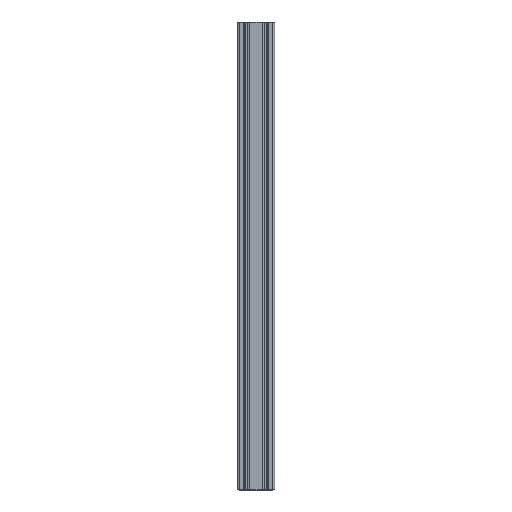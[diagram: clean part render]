
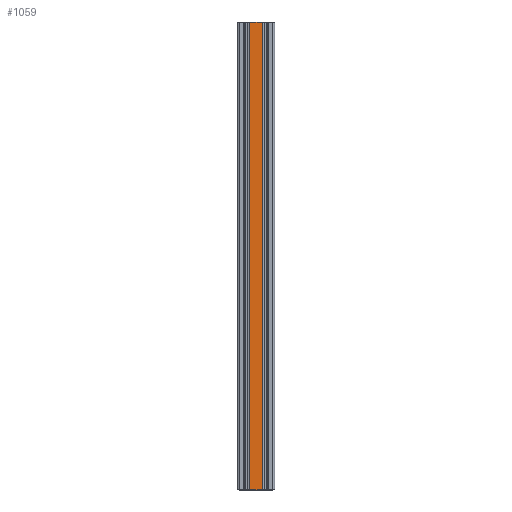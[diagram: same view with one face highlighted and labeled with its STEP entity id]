
A CAD part, top view. The second image highlights one B-rep face of the part: STEP entity #1059.
In plain terms, the highlighted planar face has unit normal (0, 0, 1).
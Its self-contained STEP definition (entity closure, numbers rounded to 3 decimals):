
#312 = DIRECTION ( 'NONE',  ( 0., -1., 0. ) ) ;
#415 = CARTESIAN_POINT ( 'NONE',  ( -3.312, -300., 10. ) ) ;
#505 = VECTOR ( 'NONE', #3934, 1000. ) ;
#714 = VECTOR ( 'NONE', #1337, 1000. ) ;
#745 = CARTESIAN_POINT ( 'NONE',  ( -3.312, 200., 10. ) ) ;
#860 = CARTESIAN_POINT ( 'NONE',  ( -6.625, 0., 10. ) ) ;
#925 = DIRECTION ( 'NONE',  ( 0., 0., 1. ) ) ;
#946 = PLANE ( 'NONE',  #2026 ) ;
#953 = CARTESIAN_POINT ( 'NONE',  ( 6.625, 200., 10. ) ) ;
#1059 = ADVANCED_FACE ( 'NONE', ( #4153 ), #946, .T. ) ;
#1070 = DIRECTION ( 'NONE',  ( -1., 0., 0. ) ) ;
#1108 = VERTEX_POINT ( 'NONE', #1562 ) ;
#1178 = DIRECTION ( 'NONE',  ( 1., 0., 0. ) ) ;
#1197 = ORIENTED_EDGE ( 'NONE', *, *, #2012, .F. ) ;
#1249 = CARTESIAN_POINT ( 'NONE',  ( 6.625, 0., 10. ) ) ;
#1337 = DIRECTION ( 'NONE',  ( -1., 0., 0. ) ) ;
#1411 = CARTESIAN_POINT ( 'NONE',  ( -6.625, -300., 10. ) ) ;
#1562 = CARTESIAN_POINT ( 'NONE',  ( -6.625, 200., 10. ) ) ;
#1696 = LINE ( 'NONE', #415, #714 ) ;
#1710 = LINE ( 'NONE', #2625, #505 ) ;
#2012 = EDGE_CURVE ( 'NONE', #4024, #4149, #3507, .T. ) ;
#2026 = AXIS2_PLACEMENT_3D ( 'NONE', #860, #925, #1178 ) ;
#2079 = EDGE_CURVE ( 'NONE', #4149, #2584, #1696, .T. ) ;
#2123 = EDGE_LOOP ( 'NONE', ( #4090, #3577, #2451, #1197 ) ) ;
#2378 = EDGE_CURVE ( 'NONE', #4024, #1108, #3578, .T. ) ;
#2385 = CARTESIAN_POINT ( 'NONE',  ( 6.625, -300., 10. ) ) ;
#2451 = ORIENTED_EDGE ( 'NONE', *, *, #2079, .F. ) ;
#2584 = VERTEX_POINT ( 'NONE', #1411 ) ;
#2625 = CARTESIAN_POINT ( 'NONE',  ( -6.625, 0., 10. ) ) ;
#2669 = VECTOR ( 'NONE', #1070, 1000. ) ;
#3185 = EDGE_CURVE ( 'NONE', #1108, #2584, #1710, .T. ) ;
#3507 = LINE ( 'NONE', #1249, #3695 ) ;
#3577 = ORIENTED_EDGE ( 'NONE', *, *, #3185, .T. ) ;
#3578 = LINE ( 'NONE', #745, #2669 ) ;
#3695 = VECTOR ( 'NONE', #312, 1000. ) ;
#3934 = DIRECTION ( 'NONE',  ( 0., -1., 0. ) ) ;
#4024 = VERTEX_POINT ( 'NONE', #953 ) ;
#4090 = ORIENTED_EDGE ( 'NONE', *, *, #2378, .T. ) ;
#4149 = VERTEX_POINT ( 'NONE', #2385 ) ;
#4153 = FACE_OUTER_BOUND ( 'NONE', #2123, .T. ) ;
